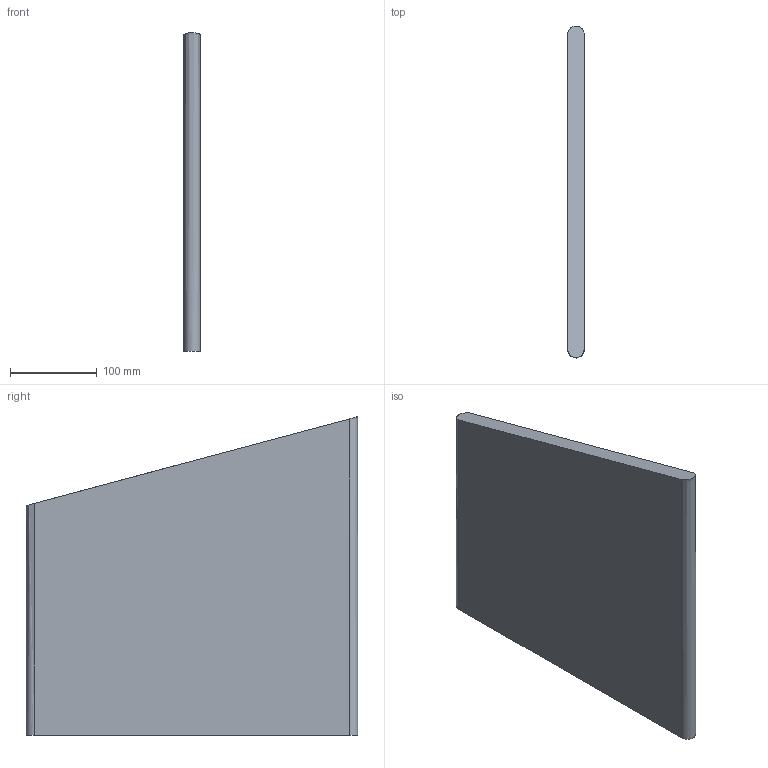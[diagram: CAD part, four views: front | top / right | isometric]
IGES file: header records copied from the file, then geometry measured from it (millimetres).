
Start section:  PTC IGES file: C:\Documents and Settings\Brad\Desktop\IGES\brace_back.i gs
Global section: file name: C:\Documents and Settings\Brad\Desktop\IGES\brace_back.igs; native system: Brad by Parametric Technology Corporation; preprocessor: 2003250; author: Unknown; organization: PTC; date: 040521.142625; units: inch
Bounding box: 19.05 x 382.74 x 367.67 mm (x, y, z)
Volume: 2282210.6 mm3; surface area: 263750.7 mm2
Topology: 1 solids, 1 shells, 6 faces, 12 edges, 8 vertices
Faces by surface type: bspline 4, revolution 2
